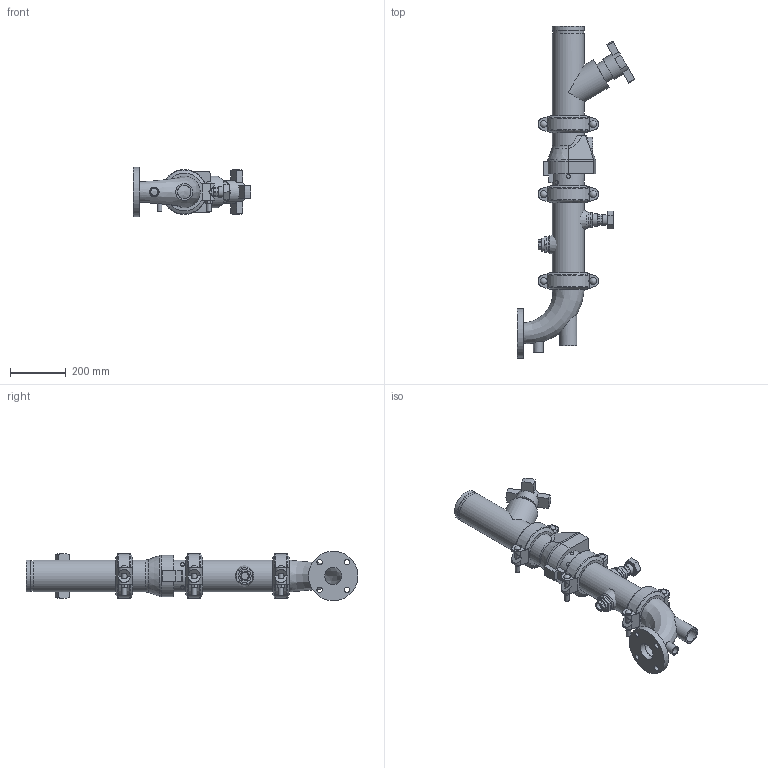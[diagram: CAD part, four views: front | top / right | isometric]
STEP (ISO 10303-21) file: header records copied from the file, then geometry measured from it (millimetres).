
FILE_DESCRIPTION(/* description */ ('VIC DVI PUMP DROP HORZ S/383 (OGSxFLG) (S/924-1.25)','CAx-IF Rec.Pracs.---Representation and Presentation of Product Manufacturing Information (PMI)---4.0---2014-10-13'),/* implementation_level */ '2;1');
FILE_NAME(/* name */ 'C:\Users\Vjadhav\AppData\Roaming\Autodesk\ApplicationPlugins\Victaulic.Temp\A892\Victaulic_IPS_Horizontal DVI_CL 150_Series 383 (OGSxFLG)_924 (1.25)_04.0x02.5 (100x65).stp',/* time_stamp */ '2022-02-28T15:42:42+05:00',/* author */ ('kkamble'),/* organization */ ('Victaulic'),/* preprocessor_version */ 'ST-DEVELOPER v17.2',/* originating_system */ 'Autodesk Inventor 2019',/* authorisation */ '');
FILE_SCHEMA (('AP242_MANAGED_MODEL_BASED_3D_ENGINEERING_MIM_LF { 1 0 10303 442 1 1 4 }'));
Length unit declared in the file: inch
Products named in the file (8): 383-924 (1.25)-04.0x02.5; Pipe-04.0x02.5; 789-04.0; 177N-04.0; 779-04.0; 923-04.0x0.75; 924-04.0x01.25; R100F-04.0x02.5
Assembly tree (9 placements, depth 2):
  383-924 (1.25)-04.0x02.5
    177N-04.0  x3
    Pipe-04.0x02.5
    789-04.0
    779-04.0
    923-04.0x0.75
    924-04.0x01.25
    R100F-04.0x02.5
Bounding box: 423.93 x 1193.8 x 177.8 mm (x, y, z)
Volume: 7958560.7 mm3; surface area: 1394102.5 mm2
Topology: 9 solids, 10 shells, 541 faces, 1439 edges, 960 vertices
Faces by surface type: plane 316, cylinder 178, torus 18, cone 17, sphere 6, bspline 6
Full cylindrical faces by diameter (mm): 13.716 x2, 17.424 x6, 19.05 x4, 21.336 x1, 23.495 x6, 26.67 x3, 34.29 x1, 38.608 x1, 42.164 x1, 45.974 x4, 48.26 x1, 48.514 x1, 55.626 x2, 60.96 x1, 62.713 x1, 72.39 x1, 82.55 x1, 101.6 x3, 102.26 x4, 110.084 x7, 114.3 x18, 177.8 x1
Entity records: 12963 total; most frequent: CARTESIAN_POINT 3309, DIRECTION 1974, ORIENTED_EDGE 1826, EDGE_CURVE 913, AXIS2_PLACEMENT_3D 751, VERTEX_POINT 616, LINE 472, VECTOR 472
